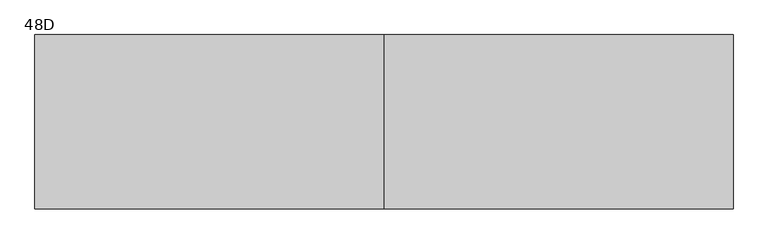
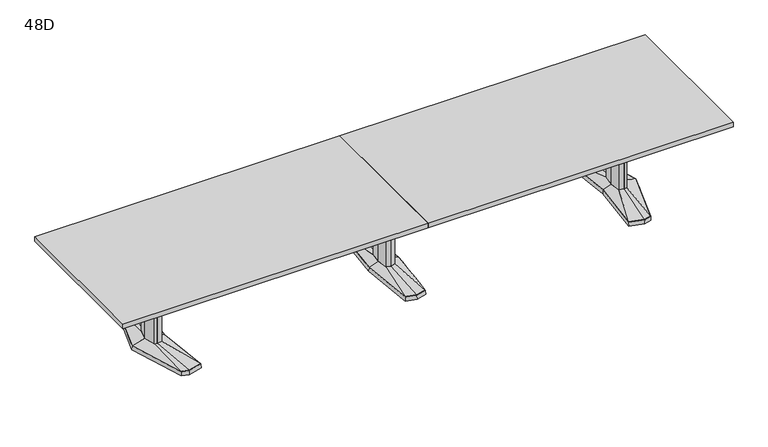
"""IFC4 building model written with IfcOpenShell, lengths in millimetres: furniture geometry, Coalesse_AM_Table_Conference_ETable2_Rectangular_16ft_AluminiumBase : 48D."""

from ifc_helpers import new_model, si_unit, frame, origin, place, context, project, spatial, polyline, outline, extrude, faceted_brep, source, transform, mapped, element, save
from ifc_brep_helpers import plane_surface, spline_surface, advanced_brep


def furniture_48d_08eb001f(model_context):
    return source(origin(), model_context, "Body", "SolidModel", [
        faceted_brep([(-81.2333791, -433.8053819, 38.1), (0.0, -455.556576, 38.1), (81.2333791, -433.8053819, 38.1), (119.0564774, 0.0, 38.1), (81.2333791, 433.8053819, 38.1), (0.0, 455.556576, 38.1), (-81.2333791, 433.8053819, 38.1), (-119.0564774, 0.0, 38.1), (-82.7182795, -435.0512063, 3.175), (-120.65, 0.0, 3.175), (-82.7182795, 435.0512063, 3.175), (0.0, 457.2, 3.175), (82.7182795, 435.0512063, 3.175), (120.65, 0.0, 3.175), (82.7182795, -435.0512063, 3.175), (0.0, -457.2, 3.175), (0.0, 429.2617927, 3.175), (-77.9676806, 408.3850278, 3.175), (-74.7019821, 382.9646737, 3.175), (0.0, 402.9670094, 3.175), (74.7019821, 382.9646737, 3.175), (77.9676806, 408.3850278, 3.175), (0.0, -429.2617927, 3.175), (77.9676806, -408.3850278, 3.175), (74.7019821, -382.9646737, 3.175), (0.0, -402.9670094, 3.175), (-74.7019821, -382.9646737, 3.175), (-77.9676806, -408.3850278, 3.175), (-71.8574262, 114.6326257, 3.175), (-82.5426076, 0.0, 3.175), (-71.8574262, -114.6326257, 3.175), (0.0, -133.8761372, 3.175), (71.8574262, -114.6326257, 3.175), (82.5426076, 0.0, 3.175), (71.8574262, 114.6326257, 3.175), (0.0, 133.8761372, 3.175), (0.0, 429.2617927, 0.0), (77.9676806, 408.3850278, 0.0), (74.7019821, 382.9646737, 0.0), (0.0, 402.9670094, 0.0), (-74.7019821, 382.9646737, 0.0), (-77.9676806, 408.3850278, 0.0), (0.0, -429.2617927, 0.0), (-77.9676806, -408.3850278, 0.0), (-74.7019821, -382.9646737, 0.0), (0.0, -402.9670094, 0.0), (74.7019821, -382.9646737, 0.0), (77.9676806, -408.3850278, 0.0), (-71.8574262, 114.6326257, 0.0), (0.0, 133.8761372, 0.0), (71.8574262, 114.6326257, 0.0), (82.5426076, 0.0, 0.0), (71.8574262, -114.6326257, 0.0), (0.0, -133.8761372, 0.0), (-71.8574262, -114.6326257, 0.0), (-82.5426076, 0.0, 0.0)], [[[0, 1, 2, 3, 4, 5, 6, 7]], [[8, 9, 10, 11, 12, 13, 14, 15], [16, 17, 18, 19, 20, 21], [22, 23, 24, 25, 26, 27], [28, 29, 30, 31, 32, 33, 34, 35]], [[1, 0, 8, 15]], [[2, 1, 15, 14]], [[3, 2, 14, 13]], [[4, 3, 13, 12]], [[5, 4, 12, 11]], [[6, 5, 11, 10]], [[7, 6, 10, 9]], [[0, 7, 9, 8]], [[36, 37, 38, 39, 40, 41]], [[42, 43, 44, 45, 46, 47]], [[48, 49, 50, 51, 52, 53, 54, 55]], [[36, 41, 17, 16]], [[41, 40, 18, 17]], [[40, 39, 19, 18]], [[39, 38, 20, 19]], [[38, 37, 21, 20]], [[37, 36, 16, 21]], [[42, 47, 23, 22]], [[47, 46, 24, 23]], [[46, 45, 25, 24]], [[45, 44, 26, 25]], [[44, 43, 27, 26]], [[43, 42, 22, 27]], [[48, 55, 29, 28]], [[55, 54, 30, 29]], [[54, 53, 31, 30]], [[53, 52, 32, 31]], [[52, 51, 33, 32]], [[51, 50, 34, 33]], [[50, 49, 35, 34]], [[49, 48, 28, 35]]]),
        faceted_brep([(-36.3832834, 84.6900825, 698.5), (-44.2774487, 0.0, 698.5), (-36.3832834, -84.6900825, 698.5), (0.0, -94.4335728, 698.5), (36.3832834, -84.6900825, 698.5), (44.2774487, 0.0, 698.5), (36.3832834, 84.6900825, 698.5), (0.0, 94.4335728, 698.5), (-36.3832834, 84.6900825, 63.5), (0.0, 94.4335728, 63.5), (36.3832834, 84.6900825, 63.5), (44.2774487, 0.0, 63.5), (36.3832834, -84.6900825, 63.5), (0.0, -94.4335728, 63.5), (-36.3832834, -84.6900825, 63.5), (-44.2774487, 0.0, 63.5)], [[[0, 1, 2, 3, 4, 5, 6, 7]], [[8, 9, 10, 11, 12, 13, 14, 15]], [[1, 0, 8, 15]], [[2, 1, 15, 14]], [[3, 2, 14, 13]], [[4, 3, 13, 12]], [[5, 4, 12, 11]], [[6, 5, 11, 10]], [[7, 6, 10, 9]], [[0, 7, 9, 8]]]),
        advanced_brep(
        [(-36.3832834, 84.6900825, 63.5), (-44.2774487, 0.0, 63.5), (-36.3832834, -84.6900825, 63.5), (0.0, -94.4335728, 63.5), (36.3832834, -84.6900825, 63.5), (44.2774487, 0.0, 63.5), (36.3832834, 84.6900825, 63.5), (0.0, 94.4335728, 63.5), (-81.2333791, 433.8053819, 38.1), (0.0, 455.556576, 38.1), (81.2333791, 433.8053819, 38.1), (119.0564774, 0.0, 38.1), (81.2333791, -433.8053819, 38.1), (0.0, -455.556576, 38.1), (-81.2333791, -433.8053819, 38.1), (-119.0564774, 0.0, 38.1)],
        [
            (0, 1),
            (1, 2),
            (2, 3),
            (3, 4),
            (4, 5),
            (5, 6),
            (6, 7),
            (7, 0),
            (8, 9),
            (9, 10),
            (10, 11),
            (11, 12),
            (12, 13),
            (13, 14),
            (14, 15),
            (15, 8),
            (15, 1),
            (0, 8),
            (14, 2),
            (13, 3),
            (12, 4),
            (11, 5),
            (10, 6),
            (9, 7),
        ],
        [
            plane_surface(frame((0.0, 0.0, 63.5), z_axis=(0.0, 0.0, 1.0000000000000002), x_axis=(-0.9659615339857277, -0.25868574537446, 0.0))),
            plane_surface(frame((0.0, 0.0, 38.1), z_axis=(0.0, 0.0, -1.0000000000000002), x_axis=(-0.9659615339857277, -0.25868574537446, 0.0))),
            spline_surface(1, 1, [[(-81.2333791, 433.8053819, 38.1), (-36.3832834, 84.6900825, 63.5)], [(-119.0564774, 0.0, 38.1), (-44.2774487, 0.0, 63.5)]], [2, 2], [2, 2], [0.0, 1.0], [0.0, 1.0]),
            spline_surface(1, 1, [[(-119.0564774, 0.0, 38.1), (-44.2774487, 0.0, 63.5)], [(-81.2333791, -433.8053819, 38.1), (-36.3832834, -84.6900825, 63.5)]], [2, 2], [2, 2], [0.0, 1.0], [0.0, 1.0]),
            spline_surface(1, 1, [[(-81.2333791, -433.8053819, 38.1), (-36.3832834, -84.6900825, 63.5)], [(0.0, -455.556576, 38.1), (0.0, -94.4335728, 63.5)]], [2, 2], [2, 2], [0.0, 1.0], [0.0, 1.0]),
            spline_surface(1, 1, [[(0.0, -455.556576, 38.1), (0.0, -94.4335728, 63.5)], [(81.2333791, -433.8053819, 38.1), (36.3832834, -84.6900825, 63.5)]], [2, 2], [2, 2], [0.0, 1.0], [0.0, 1.0]),
            spline_surface(1, 1, [[(81.2333791, -433.8053819, 38.1), (36.3832834, -84.6900825, 63.5)], [(119.0564774, 0.0, 38.1), (44.2774487, 0.0, 63.5)]], [2, 2], [2, 2], [0.0, 1.0], [0.0, 1.0]),
            spline_surface(1, 1, [[(119.0564774, 0.0, 38.1), (44.2774487, 0.0, 63.5)], [(81.2333791, 433.8053819, 38.1), (36.3832834, 84.6900825, 63.5)]], [2, 2], [2, 2], [0.0, 1.0], [0.0, 1.0]),
            spline_surface(1, 1, [[(81.2333791, 433.8053819, 38.1), (36.3832834, 84.6900825, 63.5)], [(0.0, 455.556576, 38.1), (0.0, 94.4335728, 63.5)]], [2, 2], [2, 2], [0.0, 1.0], [0.0, 1.0]),
            spline_surface(1, 1, [[(0.0, 455.556576, 38.1), (0.0, 94.4335728, 63.5)], [(-81.2333791, 433.8053819, 38.1), (-36.3832834, 84.6900825, 63.5)]], [2, 2], [2, 2], [0.0, 1.0], [0.0, 1.0]),
        ],
        [
            (0, [[1, 2, 3, 4, 5, 6, 7, 8]]),
            (1, [[9, 10, 11, 12, 13, 14, 15, 16]]),
            (2, [[-16, 17, -1, 18]]),
            (3, [[-15, 19, -2, -17]]),
            (4, [[-14, 20, -3, -19]]),
            (5, [[-13, 21, -4, -20]]),
            (6, [[-12, 22, -5, -21]]),
            (7, [[-11, 23, -6, -22]]),
            (8, [[-10, 24, -7, -23]]),
            (9, [[-9, -18, -8, -24]]),
        ],
    ),
        faceted_brep([(1820.2306835, 455.5848221, 38.1), (1710.6531277, 426.2263816, 38.1), (1751.8163717, 0.0, 38.1), (1710.6531277, -426.2263816, 38.1), (1820.2306835, -455.5848221, 38.1), (1876.3570396, -440.5478297, 38.1), (2013.6684269, 0.0, 38.1), (1876.3570396, 440.5478297, 38.1), (1820.2306754, 457.2283104, 3.175), (1877.6124472, 441.8549756, 3.175), (2015.33125, 0.0, 3.175), (1877.6124472, -441.8549756, 3.175), (1820.2306754, -457.2283104, 3.175), (1708.94375, -427.4118891, 3.175), (1750.2214856, 0.0, 3.175), (1708.94375, 427.4118891, 3.175), (1823.820115, 428.3273875, 3.175), (1718.7718228, 402.1057253, 3.175), (1726.890518, 377.985069, 3.175), (1827.4095466, 401.0699529, 3.175), (1877.9691725, 387.524361, 3.175), (1877.1631061, 414.0360954, 3.175), (1823.820115, -428.3273875, 3.175), (1877.1631061, -414.0360954, 3.175), (1877.9691725, -387.524361, 3.175), (1827.4095466, -401.0699529, 3.175), (1726.890518, -377.985069, 3.175), (1718.7718228, -402.1057253, 3.175), (1950.4153621, 0.0, 3.175), (1918.1459611, 120.4193755, 3.175), (1869.4987222, 133.471665, 3.175), (1789.6180526, 119.4176561, 3.175), (1778.4868466, 0.0, 3.175), (1789.6180526, -119.4176561, 3.175), (1869.4987222, -133.471665, 3.175), (1918.1459611, -120.4193755, 3.175), (1823.820115, 428.3273875, 0.0), (1877.1631061, 414.0360954, 0.0), (1877.9691725, 387.524361, 0.0), (1827.4095466, 401.0699529, 0.0), (1726.890518, 377.985069, 0.0), (1718.7718228, 402.1057253, 0.0), (1823.820115, -428.3273875, 0.0), (1718.7718228, -402.1057253, 0.0), (1726.890518, -377.985069, 0.0), (1827.4095466, -401.0699529, 0.0), (1877.9691725, -387.524361, 0.0), (1877.1631061, -414.0360954, 0.0), (1950.4153621, 0.0, 0.0), (1918.1459611, -120.4193755, 0.0), (1869.4987222, -133.471665, 0.0), (1789.6180526, -119.4176561, 0.0), (1778.4868466, 0.0, 0.0), (1789.6180526, 119.4176561, 0.0), (1869.4987222, 133.471665, 0.0), (1918.1459611, 120.4193755, 0.0)], [[[0, 1, 2, 3, 4, 5, 6, 7]], [[8, 9, 10, 11, 12, 13, 14, 15], [16, 17, 18, 19, 20, 21], [22, 23, 24, 25, 26, 27], [28, 29, 30, 31, 32, 33, 34, 35]], [[7, 9, 8, 0]], [[6, 10, 9, 7]], [[5, 11, 10, 6]], [[4, 12, 11, 5]], [[3, 13, 12, 4]], [[2, 14, 13, 3]], [[1, 15, 14, 2]], [[0, 8, 15, 1]], [[36, 37, 38, 39, 40, 41]], [[42, 43, 44, 45, 46, 47]], [[48, 49, 50, 51, 52, 53, 54, 55]], [[36, 16, 21, 37]], [[37, 21, 20, 38]], [[38, 20, 19, 39]], [[39, 19, 18, 40]], [[40, 18, 17, 41]], [[41, 17, 16, 36]], [[42, 22, 27, 43]], [[43, 27, 26, 44]], [[44, 26, 25, 45]], [[45, 25, 24, 46]], [[46, 24, 23, 47]], [[47, 23, 22, 42]], [[48, 28, 35, 49]], [[49, 35, 34, 50]], [[50, 34, 33, 51]], [[51, 33, 32, 52]], [[52, 32, 31, 53]], [[53, 31, 30, 54]], [[54, 30, 29, 55]], [[55, 29, 28, 48]]]),
        faceted_brep([(1910.9710836, 0.0, 698.5), (1887.0358546, 89.3188359, 698.5), (1870.1824984, 93.8406728, 698.5), (1867.7826511, 94.4845635, 698.5), (1824.855146, 86.9320037, 698.5), (1816.7520056, 0.0, 698.5), (1824.855146, -86.9320037, 698.5), (1867.7826511, -94.4845635, 698.5), (1870.1824984, -93.8406728, 698.5), (1887.0358546, -89.3188359, 698.5), (1910.9710836, 0.0, 63.5), (1887.0358546, -89.3188359, 63.5), (1870.1824984, -93.8406728, 63.5), (1867.7826511, -94.4845635, 63.5), (1824.855146, -86.9320037, 63.5), (1816.7520056, 0.0, 63.5), (1824.855146, 86.9320037, 63.5), (1867.7826511, 94.4845635, 63.5), (1870.1824984, 93.8406728, 63.5), (1887.0358546, 89.3188359, 63.5)], [[[0, 1, 2, 3, 4, 5, 6, 7, 8, 9]], [[10, 11, 12, 13, 14, 15, 16, 17, 18, 19]], [[9, 11, 10, 0]], [[8, 12, 11, 9]], [[7, 13, 12, 8]], [[6, 14, 13, 7]], [[5, 15, 14, 6]], [[4, 16, 15, 5]], [[3, 17, 16, 4]], [[2, 18, 17, 3]], [[1, 19, 18, 2]], [[0, 10, 19, 1]]]),
        advanced_brep(
        [(1867.7826511, 94.4845635, 63.5), (1824.855146, 86.9320037, 63.5), (1816.7520056, 0.0, 63.5), (1824.855146, -86.9320037, 63.5), (1867.7826511, -94.4845635, 63.5), (1887.0358546, -89.3188359, 63.5), (1910.9710836, 0.0, 63.5), (1887.0358546, 89.3188359, 63.5), (1820.2306835, 455.5848221, 38.1), (1876.3570396, 440.5478297, 38.1), (2013.6684269, 0.0, 38.1), (1876.3570396, -440.5478297, 38.1), (1820.2306835, -455.5848221, 38.1), (1710.6531277, -426.2263816, 38.1), (1751.8163717, 0.0, 38.1), (1710.6531277, 426.2263816, 38.1)],
        [
            (0, 1),
            (1, 2),
            (2, 3),
            (3, 4),
            (4, 5),
            (5, 6),
            (6, 7),
            (7, 0),
            (8, 9),
            (9, 10),
            (10, 11),
            (11, 12),
            (12, 13),
            (13, 14),
            (14, 15),
            (15, 8),
            (8, 0),
            (7, 9),
            (6, 10),
            (5, 11),
            (4, 12),
            (3, 13),
            (2, 14),
            (1, 15),
        ],
        [
            plane_surface(frame((1860.8837991, 0.0, 63.5), z_axis=(0.0, 0.0, 1.0), x_axis=(-0.25884244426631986, -0.9659195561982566, 0.0))),
            plane_surface(frame((1822.4958125, 0.0, 38.1), z_axis=(0.0, 0.0, -1.0), x_axis=(-0.25884244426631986, -0.9659195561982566, 0.0))),
            spline_surface(1, 1, [[(1820.2306835, 455.5848221, 38.1), (1876.3570396, 440.5478297, 38.1)], [(1867.7826511, 94.4845635, 63.5), (1887.0358546, 89.3188359, 63.5)]], [2, 2], [2, 2], [0.0, 1.0], [0.0, 1.0]),
            spline_surface(1, 1, [[(1876.3570396, 440.5478297, 38.1), (2013.6684269, 0.0, 38.1)], [(1887.0358546, 89.3188359, 63.5), (1910.9710836, 0.0, 63.5)]], [2, 2], [2, 2], [0.0, 1.0], [0.0, 1.0]),
            spline_surface(1, 1, [[(2013.6684269, 0.0, 38.1), (1876.3570396, -440.5478297, 38.1)], [(1910.9710836, 0.0, 63.5), (1887.0358546, -89.3188359, 63.5)]], [2, 2], [2, 2], [0.0, 1.0], [0.0, 1.0]),
            spline_surface(1, 1, [[(1876.3570396, -440.5478297, 38.1), (1820.2306835, -455.5848221, 38.1)], [(1887.0358546, -89.3188359, 63.5), (1867.7826511, -94.4845635, 63.5)]], [2, 2], [2, 2], [0.0, 1.0], [0.0, 1.0]),
            spline_surface(1, 1, [[(1820.2306835, -455.5848221, 38.1), (1710.6531277, -426.2263816, 38.1)], [(1867.7826511, -94.4845635, 63.5), (1824.855146, -86.9320037, 63.5)]], [2, 2], [2, 2], [0.0, 1.0], [0.0, 1.0]),
            spline_surface(1, 1, [[(1710.6531277, -426.2263816, 38.1), (1751.8163717, 0.0, 38.1)], [(1824.855146, -86.9320037, 63.5), (1816.7520056, 0.0, 63.5)]], [2, 2], [2, 2], [0.0, 1.0], [0.0, 1.0]),
            spline_surface(1, 1, [[(1751.8163717, 0.0, 38.1), (1710.6531277, 426.2263816, 38.1)], [(1816.7520056, 0.0, 63.5), (1824.855146, 86.9320037, 63.5)]], [2, 2], [2, 2], [0.0, 1.0], [0.0, 1.0]),
            spline_surface(1, 1, [[(1710.6531277, 426.2263816, 38.1), (1820.2306835, 455.5848221, 38.1)], [(1824.855146, 86.9320037, 63.5), (1867.7826511, 94.4845635, 63.5)]], [2, 2], [2, 2], [0.0, 1.0], [0.0, 1.0]),
        ],
        [
            (0, [[1, 2, 3, 4, 5, 6, 7, 8]]),
            (1, [[9, 10, 11, 12, 13, 14, 15, 16]]),
            (2, [[17, -8, 18, -9]]),
            (3, [[-18, -7, 19, -10]]),
            (4, [[-19, -6, 20, -11]]),
            (5, [[-20, -5, 21, -12]]),
            (6, [[-21, -4, 22, -13]]),
            (7, [[-22, -3, 23, -14]]),
            (8, [[-23, -2, 24, -15]]),
            (9, [[-24, -1, -17, -16]]),
        ],
    ),
        faceted_brep([(-1820.2306835, 455.5848221, 38.1), (-1876.3570396, 440.5478297, 38.1), (-2013.6684269, 0.0, 38.1), (-1876.3570396, -440.5478297, 38.1), (-1820.2306835, -455.5848221, 38.1), (-1710.6531277, -426.2263816, 38.1), (-1751.8163717, 0.0, 38.1), (-1710.6531277, 426.2263816, 38.1), (-1820.2306754, 457.2283104, 3.175), (-1708.94375, 427.4118891, 3.175), (-1750.2214856, 0.0, 3.175), (-1708.94375, -427.4118891, 3.175), (-1820.2306754, -457.2283104, 3.175), (-1877.6124472, -441.8549756, 3.175), (-2015.33125, 0.0, 3.175), (-1877.6124472, 441.8549756, 3.175), (-1823.820115, 428.3273875, 3.175), (-1877.1631061, 414.0360954, 3.175), (-1877.9691725, 387.524361, 3.175), (-1827.4095466, 401.0699529, 3.175), (-1726.890518, 377.985069, 3.175), (-1718.7718228, 402.1057253, 3.175), (-1823.820115, -428.3273875, 3.175), (-1718.7718228, -402.1057253, 3.175), (-1726.890518, -377.985069, 3.175), (-1827.4095466, -401.0699529, 3.175), (-1877.9691725, -387.524361, 3.175), (-1877.1631061, -414.0360954, 3.175), (-1950.4153621, 0.0, 3.175), (-1918.1459611, -120.4193755, 3.175), (-1869.4987222, -133.471665, 3.175), (-1789.6180526, -119.4176561, 3.175), (-1778.4868466, 0.0, 3.175), (-1789.6180526, 119.4176561, 3.175), (-1869.4987222, 133.471665, 3.175), (-1918.1459611, 120.4193755, 3.175), (-1823.820115, 428.3273875, 0.0), (-1718.7718228, 402.1057253, 0.0), (-1726.890518, 377.985069, 0.0), (-1827.4095466, 401.0699529, 0.0), (-1877.9691725, 387.524361, 0.0), (-1877.1631061, 414.0360954, 0.0), (-1823.820115, -428.3273875, 0.0), (-1877.1631061, -414.0360954, 0.0), (-1877.9691725, -387.524361, 0.0), (-1827.4095466, -401.0699529, 0.0), (-1726.890518, -377.985069, 0.0), (-1718.7718228, -402.1057253, 0.0), (-1950.4153621, 0.0, 0.0), (-1918.1459611, 120.4193755, 0.0), (-1869.4987222, 133.471665, 0.0), (-1789.6180526, 119.4176561, 0.0), (-1778.4868466, 0.0, 0.0), (-1789.6180526, -119.4176561, 0.0), (-1869.4987222, -133.471665, 0.0), (-1918.1459611, -120.4193755, 0.0)], [[[0, 1, 2, 3, 4, 5, 6, 7]], [[8, 9, 10, 11, 12, 13, 14, 15], [16, 17, 18, 19, 20, 21], [22, 23, 24, 25, 26, 27], [28, 29, 30, 31, 32, 33, 34, 35]], [[1, 0, 8, 15]], [[2, 1, 15, 14]], [[3, 2, 14, 13]], [[4, 3, 13, 12]], [[5, 4, 12, 11]], [[6, 5, 11, 10]], [[7, 6, 10, 9]], [[0, 7, 9, 8]], [[36, 37, 38, 39, 40, 41]], [[42, 43, 44, 45, 46, 47]], [[48, 49, 50, 51, 52, 53, 54, 55]], [[36, 41, 17, 16]], [[41, 40, 18, 17]], [[40, 39, 19, 18]], [[39, 38, 20, 19]], [[38, 37, 21, 20]], [[37, 36, 16, 21]], [[42, 47, 23, 22]], [[47, 46, 24, 23]], [[46, 45, 25, 24]], [[45, 44, 26, 25]], [[44, 43, 27, 26]], [[43, 42, 22, 27]], [[48, 55, 29, 28]], [[55, 54, 30, 29]], [[54, 53, 31, 30]], [[53, 52, 32, 31]], [[52, 51, 33, 32]], [[51, 50, 34, 33]], [[50, 49, 35, 34]], [[49, 48, 28, 35]]]),
        faceted_brep([(-1910.9710836, 0.0, 698.5), (-1887.0358546, -89.3188359, 698.5), (-1870.1824984, -93.8406728, 698.5), (-1867.7826511, -94.4845635, 698.5), (-1824.855146, -86.9320037, 698.5), (-1816.7520056, 0.0, 698.5), (-1824.855146, 86.9320037, 698.5), (-1867.7826511, 94.4845635, 698.5), (-1870.1824984, 93.8406728, 698.5), (-1887.0358546, 89.3188359, 698.5), (-1910.9710836, 0.0, 63.5), (-1887.0358546, 89.3188359, 63.5), (-1870.1824984, 93.8406728, 63.5), (-1867.7826511, 94.4845635, 63.5), (-1824.855146, 86.9320037, 63.5), (-1816.7520056, 0.0, 63.5), (-1824.855146, -86.9320037, 63.5), (-1867.7826511, -94.4845635, 63.5), (-1870.1824984, -93.8406728, 63.5), (-1887.0358546, -89.3188359, 63.5)], [[[0, 1, 2, 3, 4, 5, 6, 7, 8, 9]], [[10, 11, 12, 13, 14, 15, 16, 17, 18, 19]], [[1, 0, 10, 19]], [[2, 1, 19, 18]], [[3, 2, 18, 17]], [[4, 3, 17, 16]], [[5, 4, 16, 15]], [[6, 5, 15, 14]], [[7, 6, 14, 13]], [[8, 7, 13, 12]], [[9, 8, 12, 11]], [[0, 9, 11, 10]]]),
        advanced_brep(
        [(-1867.7826511, 94.4845635, 63.5), (-1887.0358546, 89.3188359, 63.5), (-1910.9710836, 0.0, 63.5), (-1887.0358546, -89.3188359, 63.5), (-1867.7826511, -94.4845635, 63.5), (-1824.855146, -86.9320037, 63.5), (-1816.7520056, 0.0, 63.5), (-1824.855146, 86.9320037, 63.5), (-1820.2306835, 455.5848221, 38.1), (-1710.6531277, 426.2263816, 38.1), (-1751.8163717, 0.0, 38.1), (-1710.6531277, -426.2263816, 38.1), (-1820.2306835, -455.5848221, 38.1), (-1876.3570396, -440.5478297, 38.1), (-2013.6684269, 0.0, 38.1), (-1876.3570396, 440.5478297, 38.1)],
        [
            (0, 1),
            (1, 2),
            (2, 3),
            (3, 4),
            (4, 5),
            (5, 6),
            (6, 7),
            (7, 0),
            (8, 9),
            (9, 10),
            (10, 11),
            (11, 12),
            (12, 13),
            (13, 14),
            (14, 15),
            (15, 8),
            (15, 1),
            (0, 8),
            (14, 2),
            (13, 3),
            (12, 4),
            (11, 5),
            (10, 6),
            (9, 7),
        ],
        [
            plane_surface(frame((-1860.8837991, 0.0, 63.5), z_axis=(0.0, 0.0, 1.0), x_axis=(0.25884244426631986, -0.9659195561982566, 0.0))),
            plane_surface(frame((-1822.4958125, 0.0, 38.1), z_axis=(0.0, 0.0, -1.0), x_axis=(0.25884244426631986, -0.9659195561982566, 0.0))),
            spline_surface(1, 1, [[(-1820.2306835, 455.5848221, 38.1), (-1867.7826511, 94.4845635, 63.5)], [(-1876.3570396, 440.5478297, 38.1), (-1887.0358546, 89.3188359, 63.5)]], [2, 2], [2, 2], [0.0, 1.0], [0.0, 1.0]),
            spline_surface(1, 1, [[(-1876.3570396, 440.5478297, 38.1), (-1887.0358546, 89.3188359, 63.5)], [(-2013.6684269, 0.0, 38.1), (-1910.9710836, 0.0, 63.5)]], [2, 2], [2, 2], [0.0, 1.0], [0.0, 1.0]),
            spline_surface(1, 1, [[(-2013.6684269, 0.0, 38.1), (-1910.9710836, 0.0, 63.5)], [(-1876.3570396, -440.5478297, 38.1), (-1887.0358546, -89.3188359, 63.5)]], [2, 2], [2, 2], [0.0, 1.0], [0.0, 1.0]),
            spline_surface(1, 1, [[(-1876.3570396, -440.5478297, 38.1), (-1887.0358546, -89.3188359, 63.5)], [(-1820.2306835, -455.5848221, 38.1), (-1867.7826511, -94.4845635, 63.5)]], [2, 2], [2, 2], [0.0, 1.0], [0.0, 1.0]),
            spline_surface(1, 1, [[(-1820.2306835, -455.5848221, 38.1), (-1867.7826511, -94.4845635, 63.5)], [(-1710.6531277, -426.2263816, 38.1), (-1824.855146, -86.9320037, 63.5)]], [2, 2], [2, 2], [0.0, 1.0], [0.0, 1.0]),
            spline_surface(1, 1, [[(-1710.6531277, -426.2263816, 38.1), (-1824.855146, -86.9320037, 63.5)], [(-1751.8163717, 0.0, 38.1), (-1816.7520056, 0.0, 63.5)]], [2, 2], [2, 2], [0.0, 1.0], [0.0, 1.0]),
            spline_surface(1, 1, [[(-1751.8163717, 0.0, 38.1), (-1816.7520056, 0.0, 63.5)], [(-1710.6531277, 426.2263816, 38.1), (-1824.855146, 86.9320037, 63.5)]], [2, 2], [2, 2], [0.0, 1.0], [0.0, 1.0]),
            spline_surface(1, 1, [[(-1710.6531277, 426.2263816, 38.1), (-1824.855146, 86.9320037, 63.5)], [(-1820.2306835, 455.5848221, 38.1), (-1867.7826511, 94.4845635, 63.5)]], [2, 2], [2, 2], [0.0, 1.0], [0.0, 1.0]),
        ],
        [
            (0, [[1, 2, 3, 4, 5, 6, 7, 8]]),
            (1, [[9, 10, 11, 12, 13, 14, 15, 16]]),
            (2, [[-16, 17, -1, 18]]),
            (3, [[-15, 19, -2, -17]]),
            (4, [[-14, 20, -3, -19]]),
            (5, [[-13, 21, -4, -20]]),
            (6, [[-12, 22, -5, -21]]),
            (7, [[-11, 23, -6, -22]]),
            (8, [[-10, 24, -7, -23]]),
            (9, [[-9, -18, -8, -24]]),
        ],
    ),
        extrude(outline(polyline([(96.8375, 698.5), (103.1875, 698.5), (103.1875, 476.25), (-103.1875, 476.25), (-103.1875, 698.5), (-96.8375, 698.5), (-96.8375, 482.6), (96.8375, 482.6), (96.8375, 698.5)])), frame((44.2774487, 0.0, 0.0), z_axis=(1.0, 0.0, 0.0), x_axis=(0.0, 1.0, 0.0)), (0.0, 0.0, 1.0), 1772.6163013),
        extrude(outline(polyline([(2438.4, 609.6), (2438.4, -609.6), (0.0, -609.6), (0.0, 609.6), (2438.4, 609.6)])), frame((0.0, 0.0, 698.5), z_axis=(0.0, 0.0, 1.0), x_axis=(1.0, 0.0, 0.0)), (0.0, 0.0, 1.0), 38.1),
        extrude(outline(polyline([(0.0, 609.6), (0.0, -609.6), (-2438.4, -609.6), (-2438.4, 609.6), (0.0, 609.6)])), frame((0.0, 0.0, 698.5), z_axis=(0.0, 0.0, 1.0), x_axis=(1.0, 0.0, 0.0)), (0.0, 0.0, 1.0), 38.1),
        extrude(outline(polyline([(96.8375, 698.5), (103.1875, 698.5), (103.1875, 476.25), (-103.1875, 476.25), (-103.1875, 698.5), (-96.8375, 698.5), (-96.8375, 482.6), (96.8375, 482.6), (96.8375, 698.5)])), frame((-1816.89375, 0.0, 0.0), z_axis=(1.0, 0.0, 0.0), x_axis=(0.0, 1.0, 0.0)), (0.0, 0.0, 1.0), 1772.6163013),
    ])


if __name__ == "__main__":
    model = new_model("IFC4")
    model_context = context("Model", 3, world=origin())
    ifc_project = project(units=[si_unit("LENGTHUNIT", "METRE", prefix="MILLI")], contexts=[model_context])
    site = spatial("IfcSite", under=ifc_project)
    building = spatial("IfcBuilding", under=site)
    placement = place(None, origin())
    furniture_48d_shape = furniture_48d_08eb001f(model_context)
    element("IfcFurniture", 1, ObjectType="Coalesse_AM_Table_Conference_ETable2_Rectangular_16ft_AluminiumBase : 48D", at=placement, inside=building, context=model_context, shape_type="MappedRepresentation", body=[
        mapped(furniture_48d_shape, transform((0.0, 0.0, 0.0), x_axis=(1.0, 0.0, 0.0), y_axis=(0.0, 1.0, 0.0), z_axis=(0.0, 0.0, 1.0))),
    ])
    save(model, "model.ifc")
